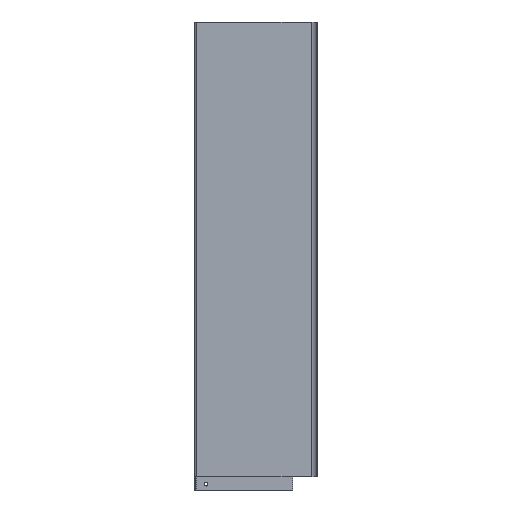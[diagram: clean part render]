
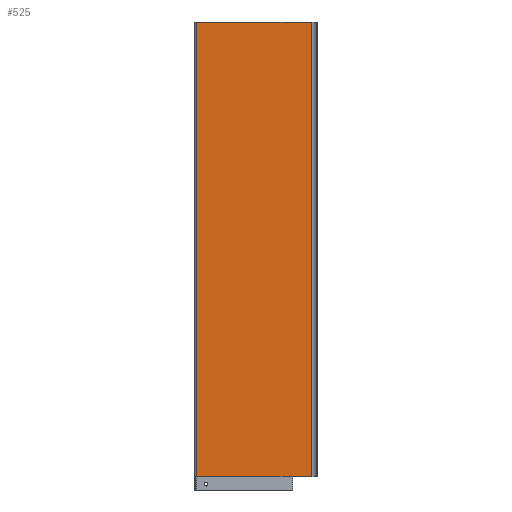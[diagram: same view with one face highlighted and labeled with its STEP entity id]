
A CAD part, left-side view. The second image highlights one B-rep face of the part: STEP entity #525.
In plain terms, the highlighted planar face has unit normal (-1, 0, 0).
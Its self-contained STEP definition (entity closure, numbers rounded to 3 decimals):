
#62 = DIRECTION ( 'NONE',  ( 0., 1., 0. ) ) ;
#129 = CARTESIAN_POINT ( 'NONE',  ( -8., -144.438, 0. ) ) ;
#136 = VERTEX_POINT ( 'NONE', #569 ) ;
#143 = ORIENTED_EDGE ( 'NONE', *, *, #746, .T. ) ;
#195 = DIRECTION ( 'NONE',  ( 0., 0., 1. ) ) ;
#223 = DIRECTION ( 'NONE',  ( 1., 0., 0. ) ) ;
#269 = CARTESIAN_POINT ( 'NONE',  ( -8., -144.438, -799.266 ) ) ;
#270 = LINE ( 'NONE', #269, #777 ) ;
#276 = DIRECTION ( 'NONE',  ( 0., -1., 0. ) ) ;
#291 = CARTESIAN_POINT ( 'NONE',  ( -8., -144.438, -629. ) ) ;
#293 = FACE_OUTER_BOUND ( 'NONE', #711, .T. ) ;
#303 = EDGE_CURVE ( 'NONE', #878, #367, #270, .T. ) ;
#307 = AXIS2_PLACEMENT_3D ( 'NONE', #628, #223, #695 ) ;
#338 = LINE ( 'NONE', #473, #475 ) ;
#351 = VERTEX_POINT ( 'NONE', #536 ) ;
#360 = ORIENTED_EDGE ( 'NONE', *, *, #723, .T. ) ;
#367 = VERTEX_POINT ( 'NONE', #129 ) ;
#473 = CARTESIAN_POINT ( 'NONE',  ( -8., -144.438, 0. ) ) ;
#475 = VECTOR ( 'NONE', #62, 1000. ) ;
#490 = PLANE ( 'NONE',  #307 ) ;
#497 = LINE ( 'NONE', #675, #677 ) ;
#525 = ADVANCED_FACE ( 'NONE', ( #293 ), #490, .F. ) ;
#536 = CARTESIAN_POINT ( 'NONE',  ( -8., 14.6, 0. ) ) ;
#543 = DIRECTION ( 'NONE',  ( 0., 0., 1. ) ) ;
#569 = CARTESIAN_POINT ( 'NONE',  ( -8., 14.6, -629. ) ) ;
#613 = VECTOR ( 'NONE', #543, 1000. ) ;
#628 = CARTESIAN_POINT ( 'NONE',  ( -8., -144.438, -799.266 ) ) ;
#675 = CARTESIAN_POINT ( 'NONE',  ( -8., -144.438, -629. ) ) ;
#677 = VECTOR ( 'NONE', #276, 1000. ) ;
#695 = DIRECTION ( 'NONE',  ( 0., 1., 0. ) ) ;
#711 = EDGE_LOOP ( 'NONE', ( #360, #789, #143, #779 ) ) ;
#723 = EDGE_CURVE ( 'NONE', #136, #878, #497, .T. ) ;
#746 = EDGE_CURVE ( 'NONE', #367, #351, #338, .T. ) ;
#749 = CARTESIAN_POINT ( 'NONE',  ( -8., 14.6, -799.266 ) ) ;
#777 = VECTOR ( 'NONE', #195, 1000. ) ;
#779 = ORIENTED_EDGE ( 'NONE', *, *, #814, .F. ) ;
#783 = LINE ( 'NONE', #749, #613 ) ;
#789 = ORIENTED_EDGE ( 'NONE', *, *, #303, .T. ) ;
#814 = EDGE_CURVE ( 'NONE', #136, #351, #783, .T. ) ;
#878 = VERTEX_POINT ( 'NONE', #291 ) ;
